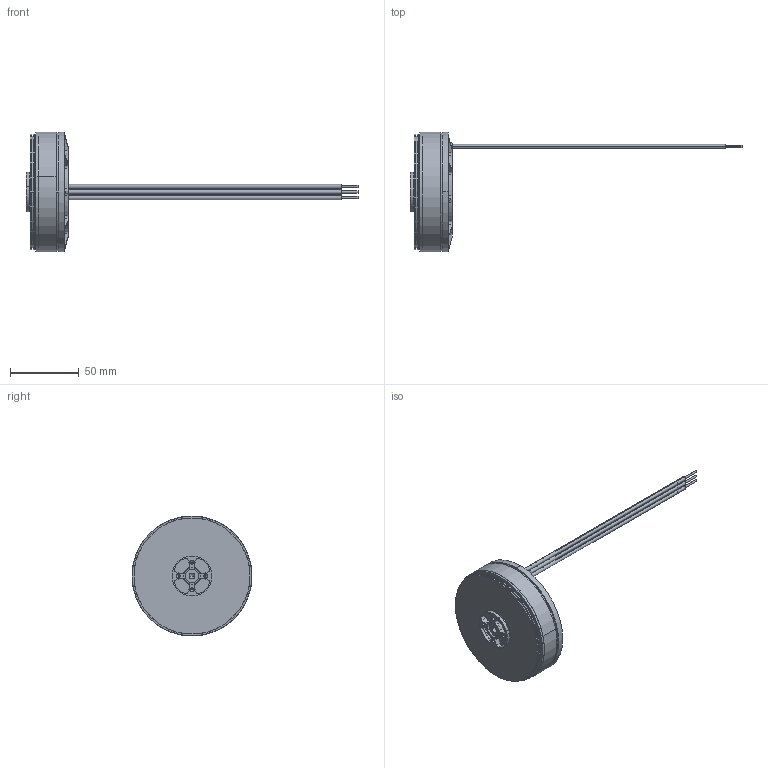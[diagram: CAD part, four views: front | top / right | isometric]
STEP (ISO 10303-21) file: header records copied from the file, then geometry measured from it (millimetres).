
FILE_DESCRIPTION((''),'2;1');
FILE_NAME('10014124','2023-07-04T21:29:43',('mmagzawo'),(''),'CREO PARAMETRIC BY PTC INC, 2022484','CREO PARAMETRIC BY PTC INC, 2022484','');
FILE_SCHEMA(('CONFIG_CONTROL_DESIGN','SHAPE_APPEARANCE_LAYERS_GROUPS'));
Length unit declared in the file: millimetre
Products named in the file (1): 10014124
Bounding box: 240.7 x 86.9 x 86.9 mm (x, y, z)
Volume: 126386.8 mm3; surface area: 49890.5 mm2
Topology: 1 solids, 15 shells, 699 faces, 1937 edges, 1252 vertices
Faces by surface type: cylinder 368, plane 282, cone 31, torus 18
Entity records: 33788 total; most frequent: CARTESIAN_POINT 4305, DIRECTION 4284, ORIENTED_EDGE 3814, PRESENTATION_STYLE_ASSIGNMENT 2534, STYLED_ITEM 1948, CURVE_STYLE 1927, EDGE_CURVE 1927, AXIS2_PLACEMENT_3D 1723
